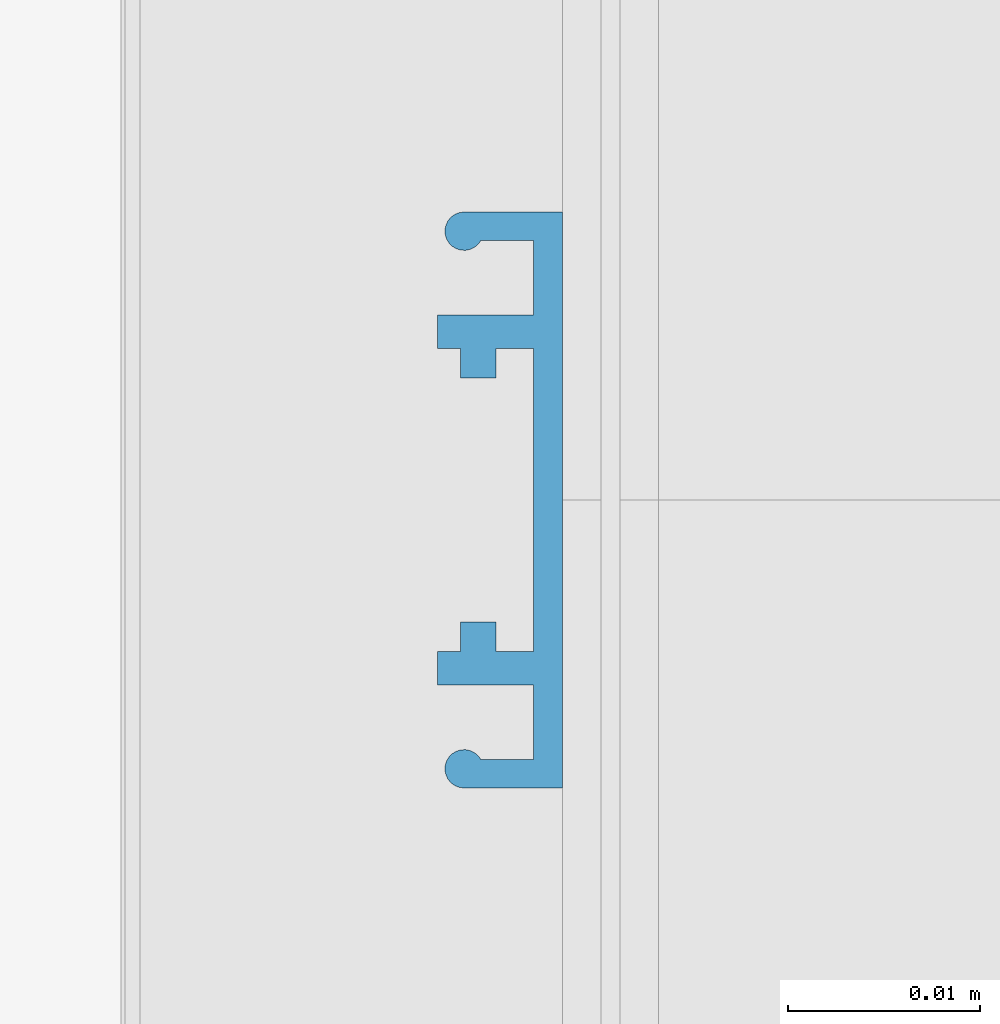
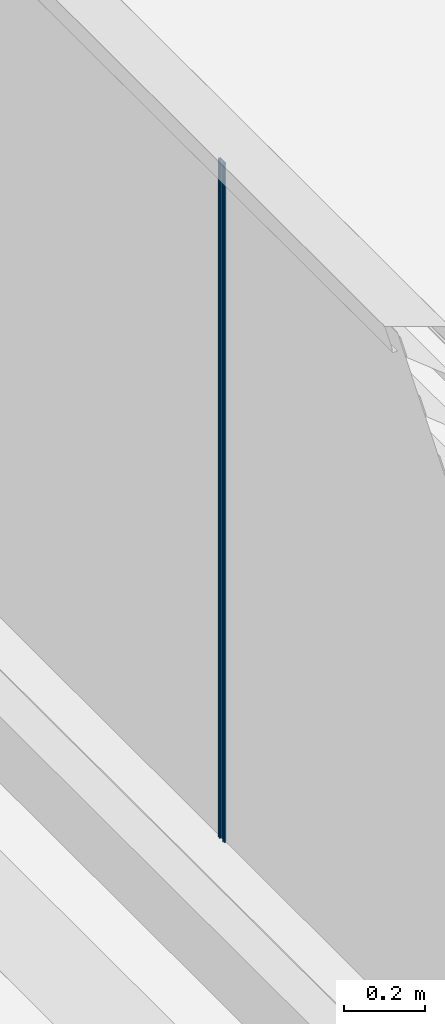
# One storey, part 11 of 32: 1 member, 1 element without a shape of its own.
"""IFC2X3 building model written with IfcOpenShell, lengths in millimetres."""

from ifc_helpers import new_model, entity, si_unit, converted_unit, derived_unit, direction, frame, frame_2d, origin, place, context, subcontext, project, spatial, polyline, circle_curve, parameter, trimmed, segment, composite_curve, outline, extrude, source, transform, mapped, material, type_object, type_shapes, element, aggregate, save


model = new_model("IFC2X3")

# Units and contexts
model_context = context("Model", 3, precision=0.01, world=origin(), true_north=direction((6.123031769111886e-17, 1.0)))
body_context = subcontext(model_context, "Body", "Model", "MODEL_VIEW")
ifc_project = project(units=[si_unit("LENGTHUNIT", "METRE", prefix="MILLI"), si_unit("AREAUNIT", "SQUARE_METRE"), si_unit("VOLUMEUNIT", "CUBIC_METRE"), converted_unit("PLANEANGLEUNIT", "DEGREE", entity("IfcRatioMeasure", 0.017453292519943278), si_unit("PLANEANGLEUNIT", "RADIAN"), dimensions=[0, 0, 0, 0, 0, 0, 0]), si_unit("MASSUNIT", "GRAM", prefix="KILO"), derived_unit("MASSDENSITYUNIT", [(si_unit("MASSUNIT", "GRAM", prefix="KILO"), 1), (si_unit("LENGTHUNIT", "METRE"), -3)]), derived_unit("IONCONCENTRATIONUNIT", [(si_unit("MASSUNIT", "GRAM", prefix="KILO"), 1), (si_unit("LENGTHUNIT", "METRE"), -3)]), derived_unit("MOMENTOFINERTIAUNIT", [(si_unit("LENGTHUNIT", "METRE"), 4)]), si_unit("TIMEUNIT", "SECOND"), si_unit("FREQUENCYUNIT", "HERTZ"), si_unit("THERMODYNAMICTEMPERATUREUNIT", "DEGREE_CELSIUS"), derived_unit("THERMALTRANSMITTANCEUNIT", [(si_unit("MASSUNIT", "GRAM", prefix="KILO"), 1), (si_unit("THERMODYNAMICTEMPERATUREUNIT", "KELVIN"), -1), (si_unit("TIMEUNIT", "SECOND"), -3)]), derived_unit("THERMALCONDUCTANCEUNIT", [(si_unit("MASSUNIT", "GRAM", prefix="KILO"), 1), (si_unit("THERMODYNAMICTEMPERATUREUNIT", "KELVIN"), -1), (si_unit("TIMEUNIT", "SECOND"), -3), (si_unit("LENGTHUNIT", "METRE"), 1)]), derived_unit("VOLUMETRICFLOWRATEUNIT", [(si_unit("LENGTHUNIT", "METRE"), 3), (si_unit("TIMEUNIT", "SECOND"), -1)]), derived_unit("MASSFLOWRATEUNIT", [(si_unit("MASSUNIT", "GRAM", prefix="KILO"), 1), (si_unit("TIMEUNIT", "SECOND"), -1)]), derived_unit("ROTATIONALFREQUENCYUNIT", [(si_unit("TIMEUNIT", "SECOND"), -1)]), si_unit("ELECTRICCURRENTUNIT", "AMPERE"), si_unit("ELECTRICVOLTAGEUNIT", "VOLT"), si_unit("POWERUNIT", "WATT"), si_unit("FORCEUNIT", "NEWTON", prefix="KILO"), si_unit("ILLUMINANCEUNIT", "LUX"), si_unit("LUMINOUSFLUXUNIT", "LUMEN"), si_unit("LUMINOUSINTENSITYUNIT", "CANDELA"), derived_unit("USERDEFINED", [(si_unit("MASSUNIT", "GRAM", prefix="KILO"), -1), (si_unit("LENGTHUNIT", "METRE"), -2), (si_unit("TIMEUNIT", "SECOND"), 3), (si_unit("LUMINOUSFLUXUNIT", "LUMEN"), 1)]), derived_unit("USERDEFINED", [(si_unit("MASSUNIT", "GRAM", prefix="KILO"), 1), (si_unit("TIMEUNIT", "SECOND"), -3), (si_unit("LENGTHUNIT", "METRE"), 3), (si_unit("ELECTRICCURRENTUNIT", "AMPERE"), -2)]), derived_unit("SOUNDPOWERUNIT", [(si_unit("MASSUNIT", "GRAM", prefix="KILO"), 1), (si_unit("TIMEUNIT", "SECOND"), -3), (si_unit("LENGTHUNIT", "METRE"), 2)]), derived_unit("SOUNDPRESSUREUNIT", [(si_unit("MASSUNIT", "GRAM", prefix="KILO"), 1), (si_unit("LENGTHUNIT", "METRE"), -1), (si_unit("TIMEUNIT", "SECOND"), -2)]), derived_unit("LINEARVELOCITYUNIT", [(si_unit("LENGTHUNIT", "METRE"), 1), (si_unit("TIMEUNIT", "SECOND"), -1)]), si_unit("PRESSUREUNIT", "PASCAL"), derived_unit("USERDEFINED", [(si_unit("MASSUNIT", "GRAM", prefix="KILO"), 1), (si_unit("LENGTHUNIT", "METRE"), -2), (si_unit("TIMEUNIT", "SECOND"), -2)]), derived_unit("LINEARFORCEUNIT", [(si_unit("MASSUNIT", "GRAM", prefix="KILO"), 1), (si_unit("TIMEUNIT", "SECOND"), -2)]), derived_unit("PLANARFORCEUNIT", [(si_unit("MASSUNIT", "GRAM", prefix="KILO"), 1), (si_unit("LENGTHUNIT", "METRE"), -1), (si_unit("TIMEUNIT", "SECOND"), -2)]), derived_unit("SPECIFICHEATCAPACITYUNIT", [(si_unit("THERMODYNAMICTEMPERATUREUNIT", "KELVIN"), -1), (si_unit("LENGTHUNIT", "METRE"), 2), (si_unit("TIMEUNIT", "SECOND"), -2)]), derived_unit("HEATINGVALUEUNIT", [(si_unit("LENGTHUNIT", "METRE"), 2), (si_unit("TIMEUNIT", "SECOND"), -2)]), derived_unit("VAPORPERMEABILITYUNIT", [(si_unit("LENGTHUNIT", "METRE"), -1), (si_unit("TIMEUNIT", "SECOND"), 1)]), derived_unit("DYNAMICVISCOSITYUNIT", [(si_unit("MASSUNIT", "GRAM", prefix="KILO"), 1), (si_unit("TIMEUNIT", "SECOND"), -1), (si_unit("LENGTHUNIT", "METRE"), -1)]), derived_unit("THERMALEXPANSIONCOEFFICIENTUNIT", [(si_unit("THERMODYNAMICTEMPERATUREUNIT", "KELVIN"), -1)]), derived_unit("MODULUSOFELASTICITYUNIT", [(si_unit("MASSUNIT", "GRAM", prefix="KILO"), 1), (si_unit("LENGTHUNIT", "METRE"), -1), (si_unit("TIMEUNIT", "SECOND"), -2)]), derived_unit("ISOTHERMALMOISTURECAPACITYUNIT", [(si_unit("LENGTHUNIT", "METRE"), 3), (si_unit("MASSUNIT", "GRAM", prefix="KILO"), -1)]), derived_unit("MOISTUREDIFFUSIVITYUNIT", [(si_unit("TIMEUNIT", "SECOND"), -1), (si_unit("LENGTHUNIT", "METRE"), 2)])], contexts=[model_context])

# Site, building, storey
site_placement = place(None, frame((0.0, 300.0, 0.0)))
site = spatial("IfcSite", under=ifc_project, at=site_placement, Name="<Kadastrale nummers>", CompositionType="ELEMENT")
building_placement = place(site_placement, origin())
building = spatial("IfcBuilding", under=site, at=building_placement, CompositionType="ELEMENT")
storey_placement = place(building_placement, frame((0.0, 0.0, 7150.000035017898)))
storey = spatial("IfcBuildingStorey", under=building, at=storey_placement, Name="02 tweede verdieping", CompositionType="ELEMENT", Elevation=7150.000035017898)

# Curtain wall, member
curtain_wall_type = type_object("IfcCurtainWallType", Name="Curtain Wall:NLRS_21_CWA_lamellenwand Linius - L.120 met LD.0065_Storax", PredefinedType="NOTDEFINED")
curtain_wall_placement = place(storey_placement, frame((0.0, 0.0, -7150.000035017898)))
curtain_wall = element("IfcCurtainWall", 1, at=curtain_wall_placement, inside=storey, type_object=curtain_wall_type, Name="Curtain Wall:NLRS_21_CWA_lamellenwand Linius - L.120 met LD.0065_Storax", ObjectType="Curtain Wall:NLRS_21_CWA_lamellenwand Linius - L.120 met LD.0065_Storax")
ifc_material = material(Name="STAAL_RAL 7006")
member_type = type_object("IfcMemberType", Name="Rectangular Mullion:NLRS_21_CWM_drager LD.0065_Storax", PredefinedType="MULLION", material=ifc_material)
shared_shape = source(origin(), body_context, "Body", "SweptSolid", [
    extrude(outline(composite_curve([segment(polyline([(-1.4234637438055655, -14.998975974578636), (3.696834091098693, -14.998975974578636)]), True, "CONTINUOUS"), segment(polyline([(3.696834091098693, -14.998975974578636), (3.696834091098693, 15.001024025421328)]), True, "CONTINUOUS"), segment(polyline([(3.696834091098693, 15.001024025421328), (-1.4234637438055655, 15.001024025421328)]), True, "CONTINUOUS"), segment(trimmed(circle_curve(frame_2d((-1.4234637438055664, 14.001024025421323), x_axis=(0.0, 1.0)), 1.0000000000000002), [parameter(0.0)], [parameter(241.34010185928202)], True, "PARAMETER"), True, "CONTINUOUS"), segment(polyline([(-0.5459816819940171, 13.521414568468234), (2.196834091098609, 13.521414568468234)]), True, "CONTINUOUS"), segment(polyline([(2.196834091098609, 13.521414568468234), (2.196834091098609, 9.648596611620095)]), True, "CONTINUOUS"), segment(polyline([(2.196834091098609, 9.648596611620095), (-2.803165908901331, 9.648596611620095)]), True, "CONTINUOUS"), segment(polyline([(-2.803165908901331, 9.648596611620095), (-2.803165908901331, 7.8879641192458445)]), True, "CONTINUOUS"), segment(polyline([(-2.803165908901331, 7.8879641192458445), (-1.6031201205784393, 7.8879641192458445)]), True, "CONTINUOUS"), segment(polyline([(-1.6031201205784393, 7.8879641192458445), (-1.6031201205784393, 6.348596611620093)]), True, "CONTINUOUS"), segment(polyline([(-1.6031201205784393, 6.348596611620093), (0.2473405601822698, 6.348596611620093)]), True, "CONTINUOUS"), segment(polyline([(0.2473405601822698, 6.348596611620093), (0.2473405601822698, 7.88796411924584)]), True, "CONTINUOUS"), segment(polyline([(0.2473405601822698, 7.88796411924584), (2.1968340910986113, 7.88796411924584)]), True, "CONTINUOUS"), segment(polyline([(2.1968340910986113, 7.88796411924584), (2.1968340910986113, -7.885916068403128)]), True, "CONTINUOUS"), segment(polyline([(2.1968340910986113, -7.885916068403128), (0.2473405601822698, -7.885916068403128)]), True, "CONTINUOUS"), segment(polyline([(0.2473405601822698, -7.885916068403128), (0.2473405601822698, -6.358836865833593)]), True, "CONTINUOUS"), segment(polyline([(0.2473405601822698, -6.358836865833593), (-1.6031201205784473, -6.358836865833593)]), True, "CONTINUOUS"), segment(polyline([(-1.6031201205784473, -6.358836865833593), (-1.6031201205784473, -7.885916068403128)]), True, "CONTINUOUS"), segment(polyline([(-1.6031201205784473, -7.885916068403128), (-2.803165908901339, -7.885916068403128)]), True, "CONTINUOUS"), segment(polyline([(-2.803165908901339, -7.885916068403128), (-2.803165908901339, -9.646548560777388)]), True, "CONTINUOUS"), segment(polyline([(-2.803165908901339, -9.646548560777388), (2.1968340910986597, -9.646548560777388)]), True, "CONTINUOUS"), segment(polyline([(2.1968340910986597, -9.646548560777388), (2.1968340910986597, -13.519366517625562)]), True, "CONTINUOUS"), segment(polyline([(2.1968340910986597, -13.519366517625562), (-0.5459816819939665, -13.519366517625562)]), True, "CONTINUOUS"), segment(trimmed(circle_curve(frame_2d((-1.4234637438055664, -13.998975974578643), x_axis=(0.8774820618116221, 0.4796094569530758)), 1.0000000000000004), [parameter(0.0)], [parameter(241.34010185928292)], True, "PARAMETER"), True, "CONTINUOUS")], self_intersect=False)), frame((-0.0010240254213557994, 4.696834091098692, -2049.999964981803), z_axis=(0.0, 0.0, 1.0), x_axis=(0.0, -1.0, 0.0)), (0.0, 0.0, 1.0), 2049.999964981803),
])
type_shapes(member_type, [shared_shape])
member_placement = place(curtain_wall_placement, frame((41676.0, 37197.49999984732, 7650.000035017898), z_axis=(0.0, 0.0, -1.0), x_axis=(0.0, -1.0, 0.0)))
member = element("IfcMember", 2, at=member_placement, type_object=member_type, material=ifc_material, Name="Rectangular Mullion:NLRS_21_CWM_drager LD.0065_Storax", ObjectType="Rectangular Mullion:NLRS_21_CWM_drager LD.0065_Storax", context=body_context, shape_type="MappedRepresentation", body=[
    mapped(shared_shape, transform((0.0, 0.0, 0.0), scale=1.0)),
])
aggregate(curtain_wall, [member])

save(model, "model.ifc")
